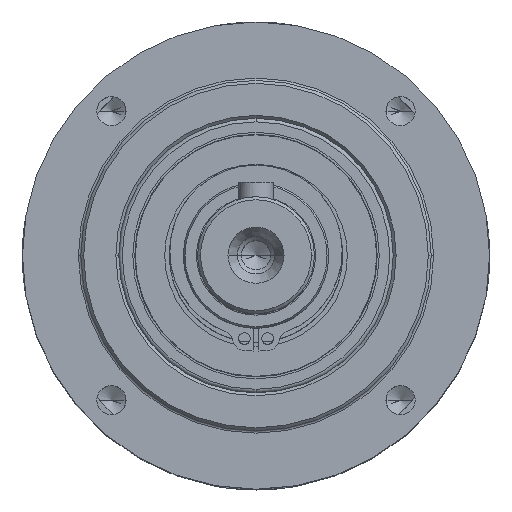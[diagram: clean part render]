
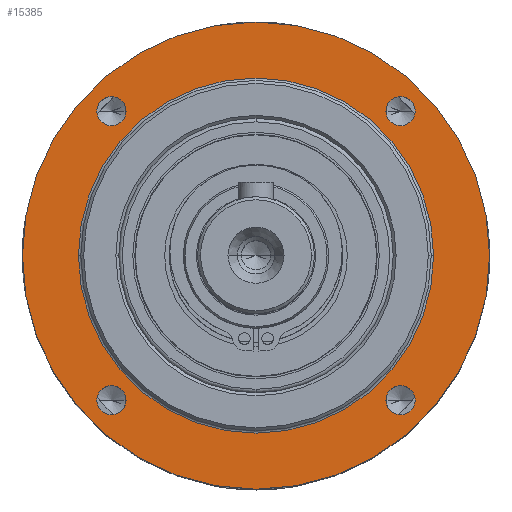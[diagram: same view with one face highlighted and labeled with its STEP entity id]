
A CAD part, top view. The second image highlights one B-rep face of the part: STEP entity #15385.
In plain terms, the highlighted planar face has unit normal (0, 0, 1).
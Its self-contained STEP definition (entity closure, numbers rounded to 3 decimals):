
#383 = VERTEX_POINT ( 'NONE', #2795 ) ;
#578 = ORIENTED_EDGE ( 'NONE', *, *, #18615, .T. ) ;
#624 = FACE_BOUND ( 'NONE', #10729, .T. ) ;
#870 = DIRECTION ( 'NONE',  ( 0., 0., 1. ) ) ;
#922 = EDGE_CURVE ( 'NONE', #3756, #5560, #12267, .T. ) ;
#1743 = DIRECTION ( 'NONE',  ( 0., 0., 1. ) ) ;
#1965 = DIRECTION ( 'NONE',  ( -1., 0., 0. ) ) ;
#1986 = DIRECTION ( 'NONE',  ( 0., 0., 1. ) ) ;
#2123 = DIRECTION ( 'NONE',  ( 0., 0., 1. ) ) ;
#2146 = CARTESIAN_POINT ( 'NONE',  ( 0., 0., 10.5 ) ) ;
#2183 = CIRCLE ( 'NONE', #7751, 2.5 ) ;
#2269 = CARTESIAN_POINT ( 'NONE',  ( -30.4, 0., 10.5 ) ) ;
#2465 = CIRCLE ( 'NONE', #12796, 2.5 ) ;
#2721 = DIRECTION ( 'NONE',  ( 0., 0., -1. ) ) ;
#2795 = CARTESIAN_POINT ( 'NONE',  ( 30.4, 0., 10.5 ) ) ;
#2798 = CARTESIAN_POINT ( 'NONE',  ( -24.749, -24.749, 10.5 ) ) ;
#3431 = DIRECTION ( 'NONE',  ( -1., 0., 0. ) ) ;
#3432 = VERTEX_POINT ( 'NONE', #16249 ) ;
#3756 = VERTEX_POINT ( 'NONE', #9321 ) ;
#3832 = DIRECTION ( 'NONE',  ( 1., 0., 0. ) ) ;
#4084 = CIRCLE ( 'NONE', #4459, 30.4 ) ;
#4241 = EDGE_CURVE ( 'NONE', #8002, #3432, #22301, .T. ) ;
#4377 = DIRECTION ( 'NONE',  ( 1., 0., 0. ) ) ;
#4421 = VERTEX_POINT ( 'NONE', #13808 ) ;
#4459 = AXIS2_PLACEMENT_3D ( 'NONE', #21304, #19373, #1965 ) ;
#4637 = EDGE_LOOP ( 'NONE', ( #20336, #16368 ) ) ;
#5249 = CARTESIAN_POINT ( 'NONE',  ( -24.749, -24.749, 10.5 ) ) ;
#5560 = VERTEX_POINT ( 'NONE', #11795 ) ;
#5881 = EDGE_LOOP ( 'NONE', ( #19169, #10130 ) ) ;
#6017 = VERTEX_POINT ( 'NONE', #17846 ) ;
#6327 = ORIENTED_EDGE ( 'NONE', *, *, #12758, .F. ) ;
#6929 = AXIS2_PLACEMENT_3D ( 'NONE', #12632, #1743, #15861 ) ;
#7293 = EDGE_LOOP ( 'NONE', ( #21747, #578 ) ) ;
#7510 = DIRECTION ( 'NONE',  ( 1., 0., 0. ) ) ;
#7533 = DIRECTION ( 'NONE',  ( 1., 0., 0. ) ) ;
#7570 = DIRECTION ( 'NONE',  ( 0., 0., 1. ) ) ;
#7619 = VERTEX_POINT ( 'NONE', #15647 ) ;
#7751 = AXIS2_PLACEMENT_3D ( 'NONE', #8829, #7570, #3832 ) ;
#7940 = CIRCLE ( 'NONE', #10507, 40. ) ;
#8002 = VERTEX_POINT ( 'NONE', #16378 ) ;
#8129 = EDGE_CURVE ( 'NONE', #17915, #383, #18347, .T. ) ;
#8194 = ORIENTED_EDGE ( 'NONE', *, *, #13816, .F. ) ;
#8359 = AXIS2_PLACEMENT_3D ( 'NONE', #15330, #20941, #3431 ) ;
#8629 = EDGE_CURVE ( 'NONE', #7619, #19429, #19483, .T. ) ;
#8829 = CARTESIAN_POINT ( 'NONE',  ( 24.749, 24.749, 10.5 ) ) ;
#9108 = VERTEX_POINT ( 'NONE', #18077 ) ;
#9239 = AXIS2_PLACEMENT_3D ( 'NONE', #13399, #15369, #15132 ) ;
#9321 = CARTESIAN_POINT ( 'NONE',  ( -22.249, -24.749, 10.5 ) ) ;
#9364 = EDGE_CURVE ( 'NONE', #22750, #6017, #21650, .T. ) ;
#9366 = EDGE_LOOP ( 'NONE', ( #10682, #8194 ) ) ;
#9458 = FACE_BOUND ( 'NONE', #10985, .T. ) ;
#9559 = CARTESIAN_POINT ( 'NONE',  ( 0., 40., 10.5 ) ) ;
#9654 = AXIS2_PLACEMENT_3D ( 'NONE', #9559, #2721, #18372 ) ;
#9808 = AXIS2_PLACEMENT_3D ( 'NONE', #18048, #870, #4377 ) ;
#9874 = DIRECTION ( 'NONE',  ( 1., 0., 0. ) ) ;
#10130 = ORIENTED_EDGE ( 'NONE', *, *, #12674, .F. ) ;
#10174 = CARTESIAN_POINT ( 'NONE',  ( 0., 0., 10.5 ) ) ;
#10507 = AXIS2_PLACEMENT_3D ( 'NONE', #10174, #10530, #19243 ) ;
#10530 = DIRECTION ( 'NONE',  ( 0., 0., 1. ) ) ;
#10682 = ORIENTED_EDGE ( 'NONE', *, *, #8629, .F. ) ;
#10729 = EDGE_LOOP ( 'NONE', ( #11745, #19955 ) ) ;
#10844 = CARTESIAN_POINT ( 'NONE',  ( 24.749, 24.749, 10.5 ) ) ;
#10985 = EDGE_LOOP ( 'NONE', ( #17495, #6327 ) ) ;
#11014 = CARTESIAN_POINT ( 'NONE',  ( -24.749, 24.749, 10.5 ) ) ;
#11294 = PLANE ( 'NONE',  #9654 ) ;
#11745 = ORIENTED_EDGE ( 'NONE', *, *, #9364, .F. ) ;
#11795 = CARTESIAN_POINT ( 'NONE',  ( -27.249, -24.749, 10.5 ) ) ;
#11992 = CIRCLE ( 'NONE', #22012, 2.5 ) ;
#12267 = CIRCLE ( 'NONE', #15949, 2.5 ) ;
#12422 = AXIS2_PLACEMENT_3D ( 'NONE', #10844, #2123, #7510 ) ;
#12632 = CARTESIAN_POINT ( 'NONE',  ( -24.749, 24.749, 10.5 ) ) ;
#12674 = EDGE_CURVE ( 'NONE', #5560, #3756, #11992, .T. ) ;
#12758 = EDGE_CURVE ( 'NONE', #9108, #4421, #2465, .T. ) ;
#12796 = AXIS2_PLACEMENT_3D ( 'NONE', #11014, #1986, #14563 ) ;
#13260 = CIRCLE ( 'NONE', #9239, 2.5 ) ;
#13399 = CARTESIAN_POINT ( 'NONE',  ( 24.749, -24.749, 10.5 ) ) ;
#13808 = CARTESIAN_POINT ( 'NONE',  ( -22.249, 24.749, 10.5 ) ) ;
#13816 = EDGE_CURVE ( 'NONE', #19429, #7619, #2183, .T. ) ;
#13878 = CIRCLE ( 'NONE', #6929, 2.5 ) ;
#14323 = CARTESIAN_POINT ( 'NONE',  ( 22.249, 24.749, 10.5 ) ) ;
#14508 = FACE_BOUND ( 'NONE', #9366, .T. ) ;
#14563 = DIRECTION ( 'NONE',  ( 1., 0., 0. ) ) ;
#15132 = DIRECTION ( 'NONE',  ( 1., 0., 0. ) ) ;
#15330 = CARTESIAN_POINT ( 'NONE',  ( 0., 0., 10.5 ) ) ;
#15369 = DIRECTION ( 'NONE',  ( 0., 0., 1. ) ) ;
#15385 = ADVANCED_FACE ( 'NONE', ( #18611, #14508, #624, #18149, #9458, #20127 ), #11294, .F. ) ;
#15647 = CARTESIAN_POINT ( 'NONE',  ( 27.249, 24.749, 10.5 ) ) ;
#15737 = DIRECTION ( 'NONE',  ( 0., 0., 1. ) ) ;
#15861 = DIRECTION ( 'NONE',  ( 1., 0., 0. ) ) ;
#15949 = AXIS2_PLACEMENT_3D ( 'NONE', #5249, #15737, #15980 ) ;
#15976 = AXIS2_PLACEMENT_3D ( 'NONE', #2146, #16251, #7533 ) ;
#15980 = DIRECTION ( 'NONE',  ( 1., 0., 0. ) ) ;
#16249 = CARTESIAN_POINT ( 'NONE',  ( -40., 0., 10.5 ) ) ;
#16251 = DIRECTION ( 'NONE',  ( 0., 0., 1. ) ) ;
#16368 = ORIENTED_EDGE ( 'NONE', *, *, #21879, .T. ) ;
#16378 = CARTESIAN_POINT ( 'NONE',  ( 40., 0., 10.5 ) ) ;
#17495 = ORIENTED_EDGE ( 'NONE', *, *, #19450, .F. ) ;
#17846 = CARTESIAN_POINT ( 'NONE',  ( 22.249, -24.749, 10.5 ) ) ;
#17915 = VERTEX_POINT ( 'NONE', #2269 ) ;
#18048 = CARTESIAN_POINT ( 'NONE',  ( 24.749, -24.749, 10.5 ) ) ;
#18077 = CARTESIAN_POINT ( 'NONE',  ( -27.249, 24.749, 10.5 ) ) ;
#18149 = FACE_BOUND ( 'NONE', #5881, .T. ) ;
#18347 = CIRCLE ( 'NONE', #8359, 30.4 ) ;
#18372 = DIRECTION ( 'NONE',  ( -1., 0., 0. ) ) ;
#18611 = FACE_BOUND ( 'NONE', #4637, .T. ) ;
#18615 = EDGE_CURVE ( 'NONE', #3432, #8002, #7940, .T. ) ;
#19169 = ORIENTED_EDGE ( 'NONE', *, *, #922, .F. ) ;
#19243 = DIRECTION ( 'NONE',  ( 1., 0., 0. ) ) ;
#19373 = DIRECTION ( 'NONE',  ( 0., 0., -1. ) ) ;
#19429 = VERTEX_POINT ( 'NONE', #14323 ) ;
#19450 = EDGE_CURVE ( 'NONE', #4421, #9108, #13878, .T. ) ;
#19483 = CIRCLE ( 'NONE', #12422, 2.5 ) ;
#19955 = ORIENTED_EDGE ( 'NONE', *, *, #21763, .F. ) ;
#20127 = FACE_OUTER_BOUND ( 'NONE', #7293, .T. ) ;
#20336 = ORIENTED_EDGE ( 'NONE', *, *, #8129, .T. ) ;
#20941 = DIRECTION ( 'NONE',  ( 0., 0., -1. ) ) ;
#21304 = CARTESIAN_POINT ( 'NONE',  ( 0., 0., 10.5 ) ) ;
#21650 = CIRCLE ( 'NONE', #9808, 2.5 ) ;
#21660 = CARTESIAN_POINT ( 'NONE',  ( 27.249, -24.749, 10.5 ) ) ;
#21747 = ORIENTED_EDGE ( 'NONE', *, *, #4241, .T. ) ;
#21763 = EDGE_CURVE ( 'NONE', #6017, #22750, #13260, .T. ) ;
#21879 = EDGE_CURVE ( 'NONE', #383, #17915, #4084, .T. ) ;
#22012 = AXIS2_PLACEMENT_3D ( 'NONE', #2798, #22280, #9874 ) ;
#22280 = DIRECTION ( 'NONE',  ( 0., 0., 1. ) ) ;
#22301 = CIRCLE ( 'NONE', #15976, 40. ) ;
#22750 = VERTEX_POINT ( 'NONE', #21660 ) ;
